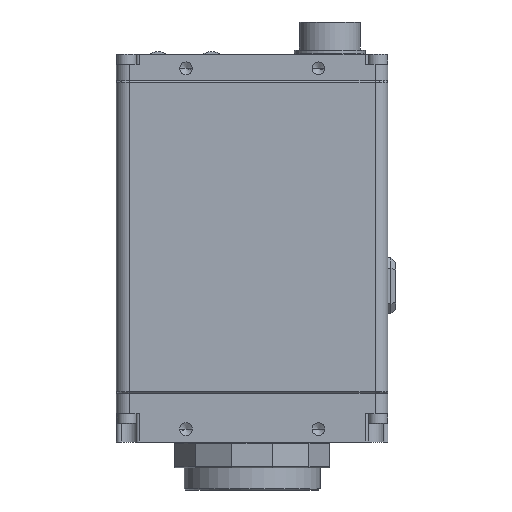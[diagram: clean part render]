
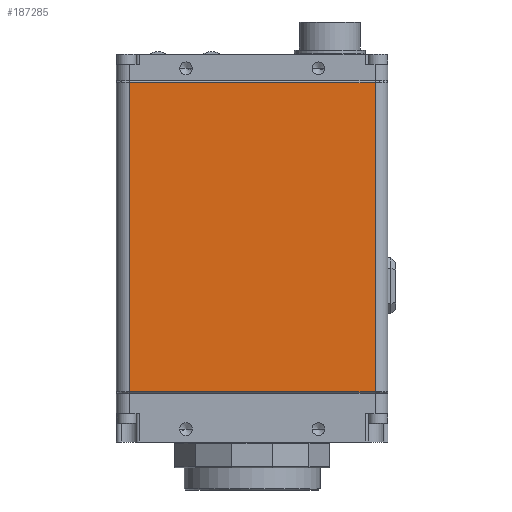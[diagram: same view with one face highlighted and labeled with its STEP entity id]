
A CAD part, front view. The second image highlights one B-rep face of the part: STEP entity #187285.
In plain terms, the highlighted planar face has unit normal (0, -1, 0) as drawn and (0, 1, 0) by its records, which use the part's own axes.
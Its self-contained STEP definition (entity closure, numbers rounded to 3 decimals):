
#545 = VECTOR ( 'NONE', #115888, 1000. ) ;
#2314 = CARTESIAN_POINT ( 'NONE',  ( 24.13, 16.51, 0.254 ) ) ;
#8322 = DIRECTION ( 'NONE',  ( 0., 0., 1. ) ) ;
#8971 = CARTESIAN_POINT ( 'NONE',  ( 24.13, 16.51, 61.214 ) ) ;
#13764 = ORIENTED_EDGE ( 'NONE', *, *, #96597, .F. ) ;
#14568 = EDGE_LOOP ( 'NONE', ( #13764, #48363, #183283, #136273 ) ) ;
#25660 = EDGE_CURVE ( 'NONE', #111814, #185623, #77463, .T. ) ;
#28289 = CARTESIAN_POINT ( 'NONE',  ( -24.13, 16.51, 60.96 ) ) ;
#33303 = FACE_OUTER_BOUND ( 'NONE', #14568, .T. ) ;
#39534 = EDGE_CURVE ( 'NONE', #120652, #111814, #122151, .T. ) ;
#41070 = LINE ( 'NONE', #117127, #545 ) ;
#48363 = ORIENTED_EDGE ( 'NONE', *, *, #25660, .F. ) ;
#50512 = VERTEX_POINT ( 'NONE', #2314 ) ;
#64658 = VECTOR ( 'NONE', #8322, 1000. ) ;
#77463 = LINE ( 'NONE', #138488, #91653 ) ;
#82215 = VECTOR ( 'NONE', #110218, 1000. ) ;
#82896 = AXIS2_PLACEMENT_3D ( 'NONE', #108433, #108215, #108170 ) ;
#88389 = CARTESIAN_POINT ( 'NONE',  ( -24.13, 16.51, 0.254 ) ) ;
#91653 = VECTOR ( 'NONE', #138468, 1000. ) ;
#96597 = EDGE_CURVE ( 'NONE', #185623, #50512, #41070, .T. ) ;
#104801 = LINE ( 'NONE', #8971, #64658 ) ;
#108170 = DIRECTION ( 'NONE',  ( 1., 0., 0. ) ) ;
#108215 = DIRECTION ( 'NONE',  ( 0., -1., 0. ) ) ;
#108433 = CARTESIAN_POINT ( 'NONE',  ( -26.67, 16.51, 61.214 ) ) ;
#109910 = PLANE ( 'NONE',  #82896 ) ;
#110218 = DIRECTION ( 'NONE',  ( -1., 0., 0. ) ) ;
#110448 = CARTESIAN_POINT ( 'NONE',  ( -26.67, 16.51, 60.96 ) ) ;
#111814 = VERTEX_POINT ( 'NONE', #28289 ) ;
#115888 = DIRECTION ( 'NONE',  ( 1., 0., 0. ) ) ;
#117127 = CARTESIAN_POINT ( 'NONE',  ( -26.67, 16.51, 0.254 ) ) ;
#120652 = VERTEX_POINT ( 'NONE', #137312 ) ;
#122151 = LINE ( 'NONE', #110448, #82215 ) ;
#136273 = ORIENTED_EDGE ( 'NONE', *, *, #152846, .F. ) ;
#137312 = CARTESIAN_POINT ( 'NONE',  ( 24.13, 16.51, 60.96 ) ) ;
#138468 = DIRECTION ( 'NONE',  ( 0., 0., -1. ) ) ;
#138488 = CARTESIAN_POINT ( 'NONE',  ( -24.13, 16.51, 61.214 ) ) ;
#152846 = EDGE_CURVE ( 'NONE', #50512, #120652, #104801, .T. ) ;
#183283 = ORIENTED_EDGE ( 'NONE', *, *, #39534, .F. ) ;
#185623 = VERTEX_POINT ( 'NONE', #88389 ) ;
#187285 = ADVANCED_FACE ( 'NONE', ( #33303 ), #109910, .F. ) ;
